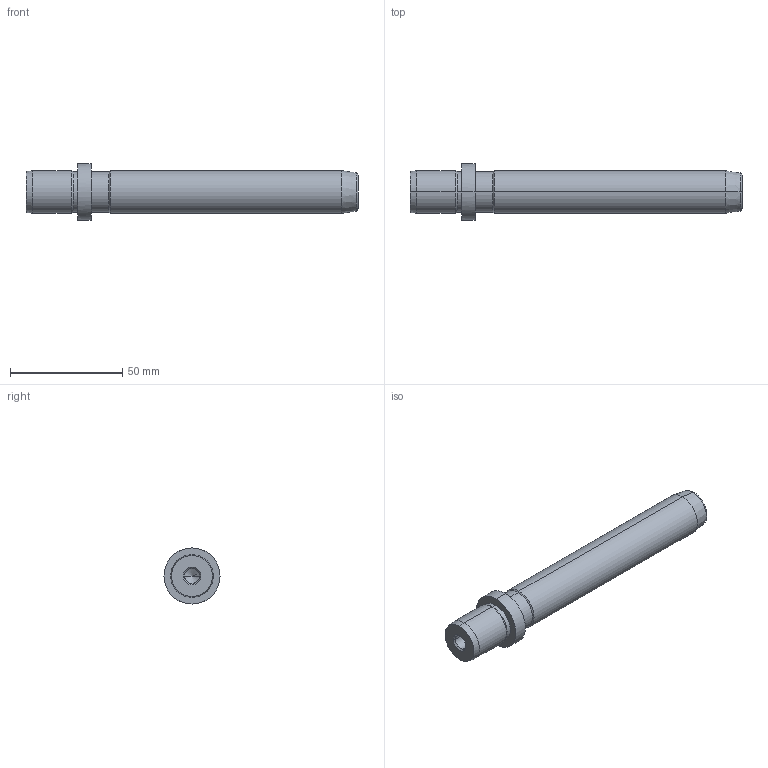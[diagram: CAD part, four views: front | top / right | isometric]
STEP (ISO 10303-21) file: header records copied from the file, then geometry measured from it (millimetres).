
FILE_DESCRIPTION(('CATIA V5 STEP Exchange'),'2;1');
FILE_NAME('C:\Users\Utente\Desktop\IO LAVORO\3D X SITO CF\X SITO\718\718-19x125.stp','2021-01-02T15:43:15+00:00',('none'),('none'),'CATIA Version 5 Release 20 GA (IN-10)','CATIA V5 STEP AP203','none');
FILE_SCHEMA(('CONFIG_CONTROL_DESIGN'));
Length unit declared in the file: millimetre
Products named in the file (1): 718-19x125
Bounding box: 148 x 25 x 25 mm (x, y, z)
Volume: 40903.1 mm3; surface area: 10847.5 mm2
Topology: 1 solids, 1 shells, 36 faces, 100 edges, 66 vertices
Faces by surface type: cone 16, cylinder 14, plane 4, torus 2
Entity records: 1285 total; most frequent: CARTESIAN_POINT 356, ORIENTED_EDGE 192, DIRECTION 157, EDGE_CURVE 96, AXIS2_PLACEMENT_3D 92, VERTEX_POINT 66, CIRCLE 55, EDGE_LOOP 40
